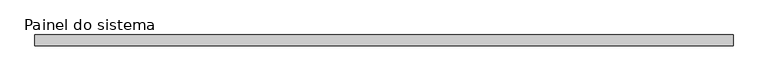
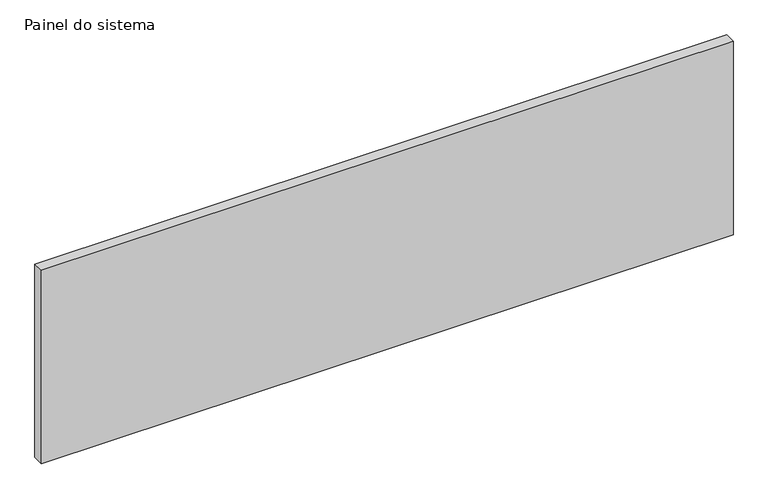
"""IFC4 building model written with IfcOpenShell, lengths in millimetres: plate geometry, Painel do sistema : Envidraçado."""

from ifc_helpers import new_model, si_unit, origin, origin_with_axes, place, context, project, spatial, polyline, outline, extrude, source, transform, mapped, element, save


def painel_do_sistema_5ea5287b(model_context):
    return source(origin(), model_context, "Body", "SweptSolid", [
        extrude(outline(polyline([(634.5833333, -10.0), (-634.5833333, -10.0), (-634.5833333, 10.0), (634.5833333, 10.0), (634.5833333, -10.0)])), origin_with_axes(), (0.0, 0.0, 1.0), 375.0),
    ])


if __name__ == "__main__":
    model = new_model("IFC4")
    model_context = context("Model", 3, world=origin())
    ifc_project = project(units=[si_unit("LENGTHUNIT", "METRE", prefix="MILLI")], contexts=[model_context])
    site = spatial("IfcSite", under=ifc_project)
    building = spatial("IfcBuilding", under=site)
    placement = place(None, origin())
    painel_do_sistema_shape = painel_do_sistema_5ea5287b(model_context)
    element("IfcPlate", 1, ObjectType="Painel do sistema : Envidraçado", at=placement, inside=building, context=model_context, shape_type="MappedRepresentation", body=[
        mapped(painel_do_sistema_shape, transform((0.0, 0.0, 0.0), x_axis=(1.0, 0.0, 0.0), y_axis=(0.0, 1.0, 0.0), z_axis=(0.0, 0.0, 1.0))),
    ])
    save(model, "model.ifc")
